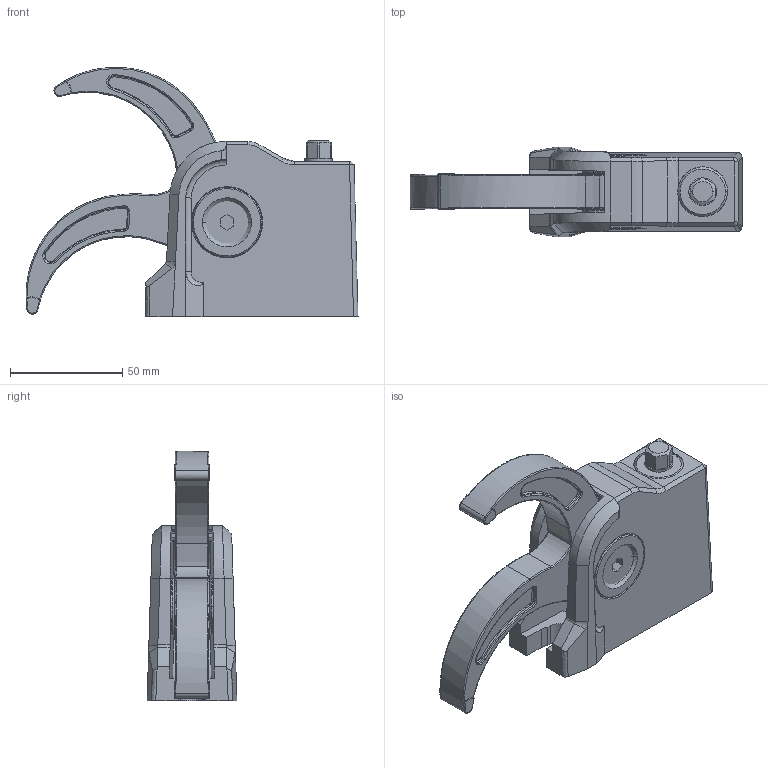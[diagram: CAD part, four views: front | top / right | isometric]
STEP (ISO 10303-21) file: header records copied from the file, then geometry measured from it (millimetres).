
FILE_DESCRIPTION( ( 'STEP AP214' ), '1' );
FILE_NAME( 'O:/CAD_Daten_Platzhalter/BAS u BSP/BSP-C10-6/BSP-C10-6.stp', ' ', ( ' ' ), ( ' ' ), 'PSStep 11.0', ' ', ' ' );
FILE_SCHEMA( ( 'AUTOMOTIVE_DESIGN { 1 0 10303 214 1 1 1 1 }' ) );
Length unit declared in the file: metre
Products named in the file (9): 1; 2; 3; 4; 5; 6; 7; 8; 9
Bounding box: 147.83 x 40 x 110.97 mm (x, y, z)
Volume: 235536.4 mm3; surface area: 73849.8 mm2
Topology: 9 solids, 9 shells, 481 faces, 1134 edges, 668 vertices
Faces by surface type: bspline 481
Entity records: 30279 total; most frequent: CARTESIAN_POINT 19944, ORIENTED_EDGE 2226, EDGE_CURVE 1113, VERTEX_POINT 668, B_SPLINE_CURVE_WITH_KNOTS 667, EDGE_LOOP 517, STYLED_ITEM 481, PRESENTATION_STYLE_ASSIGNMENT 481
